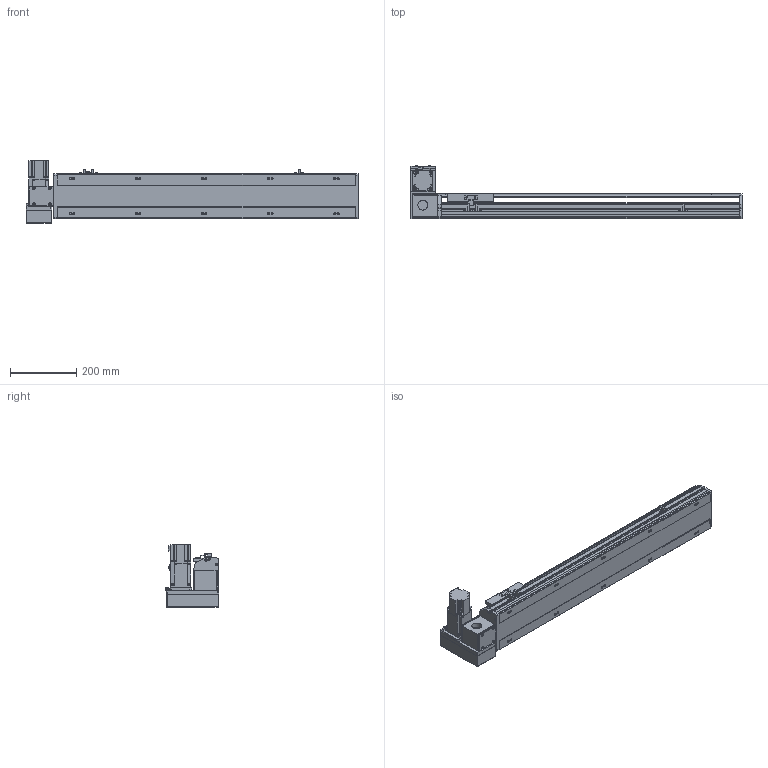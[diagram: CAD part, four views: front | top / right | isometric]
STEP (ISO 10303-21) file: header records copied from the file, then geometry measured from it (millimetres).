
FILE_DESCRIPTION( ( 'STEP AP214' ), '1' );
FILE_NAME( 'x:/temp/worker_2/temp/exporttempdir_6476_469_OBcaO/format_0/PBS140-P40-S650-LU-T40-C1-N(0).stp', '2022-06-07T05:16:21', ( 'License CC BY-ND 4.0' ), ( 'CADENAS' ), ' ', 'PARTsolutions', ' ' );
FILE_SCHEMA( ( 'AUTOMOTIVE_DESIGN { 1 0 10303 214 1 1 1 1 }' ) );
Length unit declared in the file: millimetre
Products named in the file (7): PBS140-P40-S650-LU-T40-C1-N(0); _PBS140-S650()_body; _PBS140T-LU_motors; _T40-p1; _PBS140_sliser; _PBS140_plant; _PBS140_sensor
Assembly tree (8 placements, depth 2):
  PBS140-P40-S650-LU-T40-C1-N(0)
    _PBS140-S650()_body
    _PBS140T-LU_motors
    _T40-p1
    _PBS140_sliser
    _PBS140_plant
    _PBS140_sensor  x3
Bounding box: 1004 x 162.5 x 189.7 mm (x, y, z)
Volume: 5047299.6 mm3; surface area: 896342.4 mm2
Topology: 8 solids, 8 shells, 1027 faces, 2716 edges, 1775 vertices
Faces by surface type: plane 674, cylinder 307, cone 36, sphere 8, torus 2
Full cylindrical faces by diameter (mm): 3.242 x4, 4 x2, 4.134 x4, 4.4 x8, 4.5 x2, 4.8 x4, 4.917 x18, 5.5 x7, 6 x2, 7 x12, 7.5 x8, 8 x12, 8.5 x4, 10.5 x10, 14 x1, 30 x2, 50 x2
Entity records: 37363 total; most frequent: CARTESIAN_POINT 5747, DIRECTION 4987, ORIENTED_EDGE 4732, EDGE_CURVE 2366, AXIS2_PLACEMENT_3D 1717, VERTEX_POINT 1629, LINE 1553, VECTOR 1553
